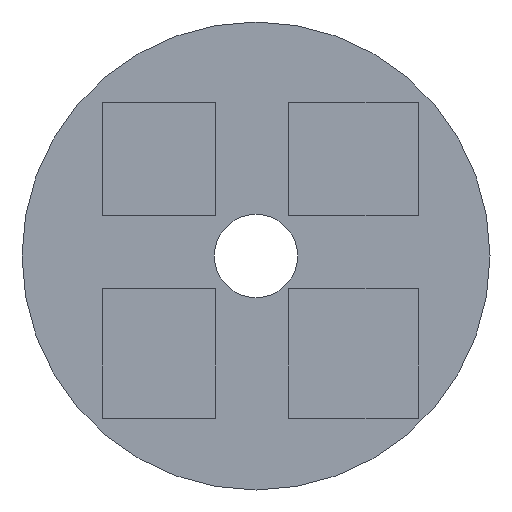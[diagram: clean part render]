
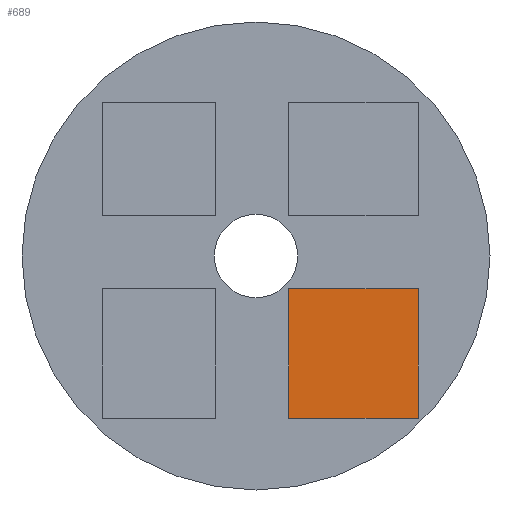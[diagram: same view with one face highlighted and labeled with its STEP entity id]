
A CAD part, front view. The second image highlights one B-rep face of the part: STEP entity #689.
In plain terms, the highlighted planar face has unit normal (0, -1, 0).
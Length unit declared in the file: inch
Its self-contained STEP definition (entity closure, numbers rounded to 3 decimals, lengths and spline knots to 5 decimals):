
#2 = CARTESIAN_POINT ( 'NONE',  ( 24.68924, -13.77953, -122.85666 ) ) ;
#22 = PLANE ( 'NONE',  #664 ) ;
#69 = CARTESIAN_POINT ( 'NONE',  ( 122.85666, -13.77953, -24.68924 ) ) ;
#135 = FACE_OUTER_BOUND ( 'NONE', #325, .T. ) ;
#142 = DIRECTION ( 'NONE',  ( 0., 0., -1. ) ) ;
#151 = EDGE_CURVE ( 'NONE', #378, #705, #751, .T. ) ;
#175 = VECTOR ( 'NONE', #446, 39.37008 ) ;
#187 = CARTESIAN_POINT ( 'NONE',  ( 24.68924, -13.77953, -24.68924 ) ) ;
#216 = CARTESIAN_POINT ( 'NONE',  ( 24.68924, -13.77953, -24.68924 ) ) ;
#260 = LINE ( 'NONE', #69, #175 ) ;
#286 = VECTOR ( 'NONE', #622, 39.37008 ) ;
#325 = EDGE_LOOP ( 'NONE', ( #567, #693, #605, #598 ) ) ;
#362 = DIRECTION ( 'NONE',  ( 0., 0., 1. ) ) ;
#378 = VERTEX_POINT ( 'NONE', #720 ) ;
#401 = DIRECTION ( 'NONE',  ( 1., 0., 0. ) ) ;
#430 = EDGE_CURVE ( 'NONE', #628, #765, #260, .T. ) ;
#439 = EDGE_CURVE ( 'NONE', #765, #378, #768, .T. ) ;
#446 = DIRECTION ( 'NONE',  ( 0., 0., -1. ) ) ;
#454 = CARTESIAN_POINT ( 'NONE',  ( 0., -13.77953, 0. ) ) ;
#483 = VECTOR ( 'NONE', #362, 39.37008 ) ;
#531 = DIRECTION ( 'NONE',  ( 0., -1., 0. ) ) ;
#567 = ORIENTED_EDGE ( 'NONE', *, *, #151, .F. ) ;
#598 = ORIENTED_EDGE ( 'NONE', *, *, #743, .F. ) ;
#605 = ORIENTED_EDGE ( 'NONE', *, *, #430, .F. ) ;
#622 = DIRECTION ( 'NONE',  ( -1., 0., 0. ) ) ;
#628 = VERTEX_POINT ( 'NONE', #784 ) ;
#664 = AXIS2_PLACEMENT_3D ( 'NONE', #454, #531, #142 ) ;
#689 = ADVANCED_FACE ( 'NONE', ( #135 ), #22, .T. ) ;
#693 = ORIENTED_EDGE ( 'NONE', *, *, #439, .F. ) ;
#705 = VERTEX_POINT ( 'NONE', #216 ) ;
#720 = CARTESIAN_POINT ( 'NONE',  ( 24.68924, -13.77953, -122.85666 ) ) ;
#722 = CARTESIAN_POINT ( 'NONE',  ( 24.68924, -13.77953, -24.68924 ) ) ;
#743 = EDGE_CURVE ( 'NONE', #705, #628, #777, .T. ) ;
#751 = LINE ( 'NONE', #187, #483 ) ;
#765 = VERTEX_POINT ( 'NONE', #785 ) ;
#768 = LINE ( 'NONE', #2, #286 ) ;
#773 = VECTOR ( 'NONE', #401, 39.37008 ) ;
#777 = LINE ( 'NONE', #722, #773 ) ;
#784 = CARTESIAN_POINT ( 'NONE',  ( 122.85666, -13.77953, -24.68924 ) ) ;
#785 = CARTESIAN_POINT ( 'NONE',  ( 122.85666, -13.77953, -122.85666 ) ) ;
